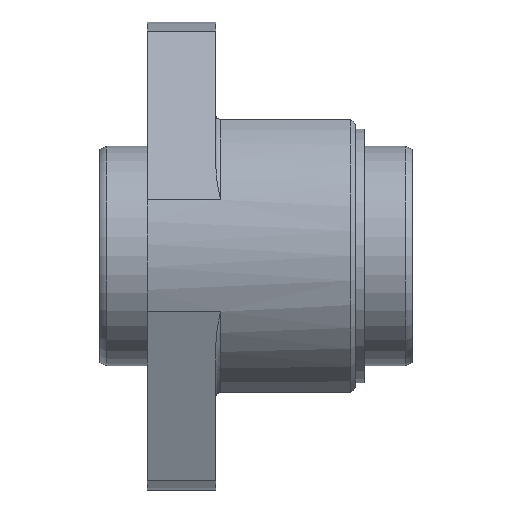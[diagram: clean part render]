
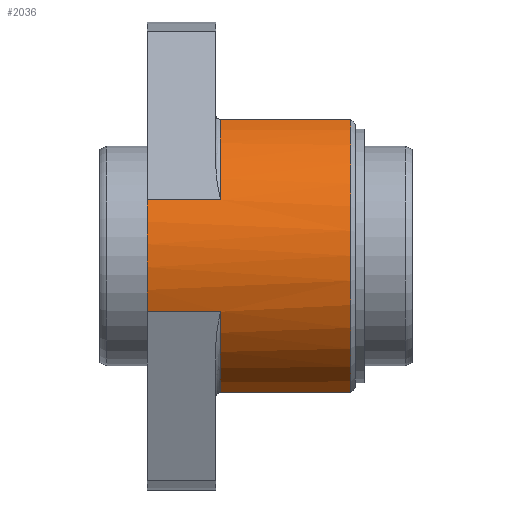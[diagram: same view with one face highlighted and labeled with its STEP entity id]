
A CAD part, top view. The second image highlights one B-rep face of the part: STEP entity #2036.
In plain terms, the highlighted cylindrical face has radius 30 mm (diameter 60 mm), a partial arc.
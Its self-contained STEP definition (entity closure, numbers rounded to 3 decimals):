
#1620=CARTESIAN_POINT('',(15.,11.481,27.716));
#1621=VERTEX_POINT('',#1620);
#1629=CARTESIAN_POINT('',(15.,28.,10.77));
#1630=VERTEX_POINT('',#1629);
#1631=CARTESIAN_POINT('',(15.,0.0,0.0));
#1632=DIRECTION('',(-1.,0.0,0.0));
#1633=DIRECTION('',(0.0,0.716,0.698));
#1634=AXIS2_PLACEMENT_3D('',#1631,#1632,#1633);
#1635=CIRCLE('',#1634,30.0);
#1636=EDGE_CURVE('',#1621,#1630,#1635,.T.);
#1832=CARTESIAN_POINT('',(15.,-28.,10.77));
#1833=VERTEX_POINT('',#1832);
#1834=CARTESIAN_POINT('',(15.,-11.481,27.716));
#1835=VERTEX_POINT('',#1834);
#1836=CARTESIAN_POINT('',(15.,0.0,0.0));
#1837=DIRECTION('',(-1.0,0.0,0.0));
#1838=DIRECTION('',(0.0,-0.716,0.698));
#1839=AXIS2_PLACEMENT_3D('',#1836,#1837,#1838);
#1840=CIRCLE('',#1839,30.0);
#1841=EDGE_CURVE('',#1833,#1835,#1840,.T.);
#1981=CARTESIAN_POINT('',(0.0,0.0,0.0));
#1982=DIRECTION('',(1.0,0.0,0.0));
#1983=DIRECTION('',(0.0,1.0,0.0));
#1984=AXIS2_PLACEMENT_3D('',#1981,#1982,#1983);
#1985=CYLINDRICAL_SURFACE('',#1984,30.0);
#1986=CARTESIAN_POINT('',(0.0,11.481,27.716));
#1987=VERTEX_POINT('',#1986);
#1988=CARTESIAN_POINT('',(0.0,11.481,27.716));
#1989=DIRECTION('',(1.0,0.0,0.0));
#1990=VECTOR('',#1989,15.);
#1991=LINE('',#1988,#1990);
#1992=EDGE_CURVE('',#1987,#1621,#1991,.T.);
#1993=ORIENTED_EDGE('',*,*,#1992,.F.);
#1994=CARTESIAN_POINT('',(0.0,-11.481,27.716));
#1995=VERTEX_POINT('',#1994);
#1996=CARTESIAN_POINT('',(0.0,0.0,0.0));
#1997=DIRECTION('',(1.0,0.0,0.0));
#1998=DIRECTION('',(0.0,1.0,0.0));
#1999=AXIS2_PLACEMENT_3D('',#1996,#1997,#1998);
#2000=CIRCLE('',#1999,30.0);
#2001=EDGE_CURVE('',#1987,#1995,#2000,.T.);
#2002=ORIENTED_EDGE('',*,*,#2001,.T.);
#2003=CARTESIAN_POINT('',(0.0,-11.481,27.716));
#2004=DIRECTION('',(1.0,0.0,0.0));
#2005=VECTOR('',#2004,15.);
#2006=LINE('',#2003,#2005);
#2007=EDGE_CURVE('',#1995,#1835,#2006,.T.);
#2008=ORIENTED_EDGE('',*,*,#2007,.T.);
#2009=ORIENTED_EDGE('',*,*,#1841,.F.);
#2010=CARTESIAN_POINT('',(41.7,-28.,10.77));
#2011=VERTEX_POINT('',#2010);
#2012=CARTESIAN_POINT('',(15.,-28.,10.77));
#2013=DIRECTION('',(1.0,0.0,0.0));
#2014=VECTOR('',#2013,26.7);
#2015=LINE('',#2012,#2014);
#2016=EDGE_CURVE('',#1833,#2011,#2015,.T.);
#2017=ORIENTED_EDGE('',*,*,#2016,.T.);
#2018=CARTESIAN_POINT('',(41.7,28.,10.77));
#2019=VERTEX_POINT('',#2018);
#2020=CARTESIAN_POINT('',(41.7,0.0,0.0));
#2021=DIRECTION('',(1.0,0.0,0.0));
#2022=DIRECTION('',(0.0,1.0,0.0));
#2023=AXIS2_PLACEMENT_3D('',#2020,#2021,#2022);
#2024=CIRCLE('',#2023,30.0);
#2025=EDGE_CURVE('',#2019,#2011,#2024,.T.);
#2026=ORIENTED_EDGE('',*,*,#2025,.F.);
#2027=CARTESIAN_POINT('',(15.,28.,10.77));
#2028=DIRECTION('',(1.0,0.0,0.0));
#2029=VECTOR('',#2028,26.7);
#2030=LINE('',#2027,#2029);
#2031=EDGE_CURVE('',#1630,#2019,#2030,.T.);
#2032=ORIENTED_EDGE('',*,*,#2031,.F.);
#2033=ORIENTED_EDGE('',*,*,#1636,.F.);
#2034=EDGE_LOOP('',(#1993,#2002,#2008,#2009,#2017,#2026,#2032,#2033));
#2035=FACE_OUTER_BOUND('',#2034,.T.);
#2036=ADVANCED_FACE('',(#2035),#1985,.T.);
